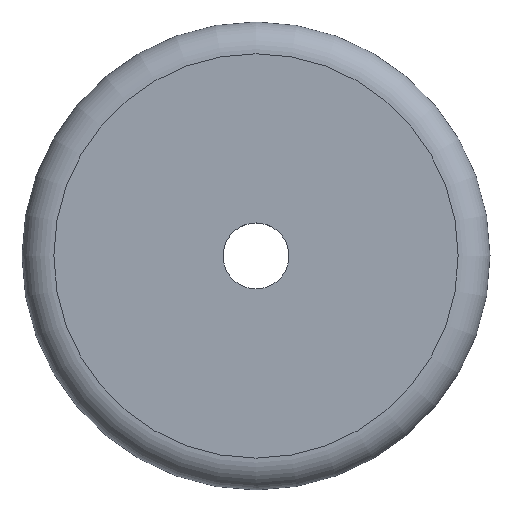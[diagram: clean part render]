
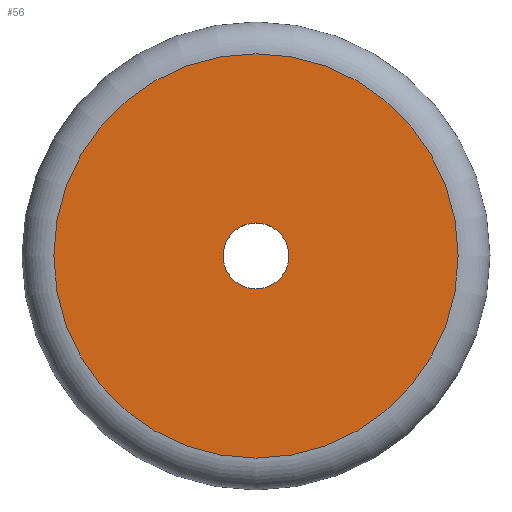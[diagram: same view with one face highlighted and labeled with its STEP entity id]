
A CAD part, top view. The second image highlights one B-rep face of the part: STEP entity #56.
In plain terms, the highlighted planar face has unit normal (0, 0, 1).
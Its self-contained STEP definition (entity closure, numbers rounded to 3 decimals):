
#38=PLANE('',#167);
#44=FACE_OUTER_BOUND('',#89,.T.);
#56=ADVANCED_FACE('',(#70,#44),#38,.T.);
#70=FACE_BOUND('',#88,.T.);
#88=EDGE_LOOP('',(#110));
#89=EDGE_LOOP('',(#111));
#110=ORIENTED_EDGE('',*,*,#138,.T.);
#111=ORIENTED_EDGE('',*,*,#136,.T.);
#125=VERTEX_POINT('',#230);
#127=VERTEX_POINT('',#235);
#136=EDGE_CURVE('',#125,#125,#147,.T.);
#138=EDGE_CURVE('',#127,#127,#149,.T.);
#147=CIRCLE('',#159,9.5);
#149=CIRCLE('',#162,1.55);
#159=AXIS2_PLACEMENT_3D('',#229,#184,#185);
#162=AXIS2_PLACEMENT_3D('',#234,#190,#191);
#167=AXIS2_PLACEMENT_3D('',#241,#200,#201);
#184=DIRECTION('',(0.,0.,1.));
#185=DIRECTION('',(1.,0.,0.));
#190=DIRECTION('',(0.,0.,-1.));
#191=DIRECTION('',(-1.,0.,0.));
#200=DIRECTION('',(0.,0.,1.));
#201=DIRECTION('',(1.,0.,0.));
#229=CARTESIAN_POINT('',(0.,0.,0.));
#230=CARTESIAN_POINT('',(9.5,0.,0.));
#234=CARTESIAN_POINT('',(0.,0.,0.));
#235=CARTESIAN_POINT('',(-1.55,0.,0.));
#241=CARTESIAN_POINT('',(0.,0.,0.));
